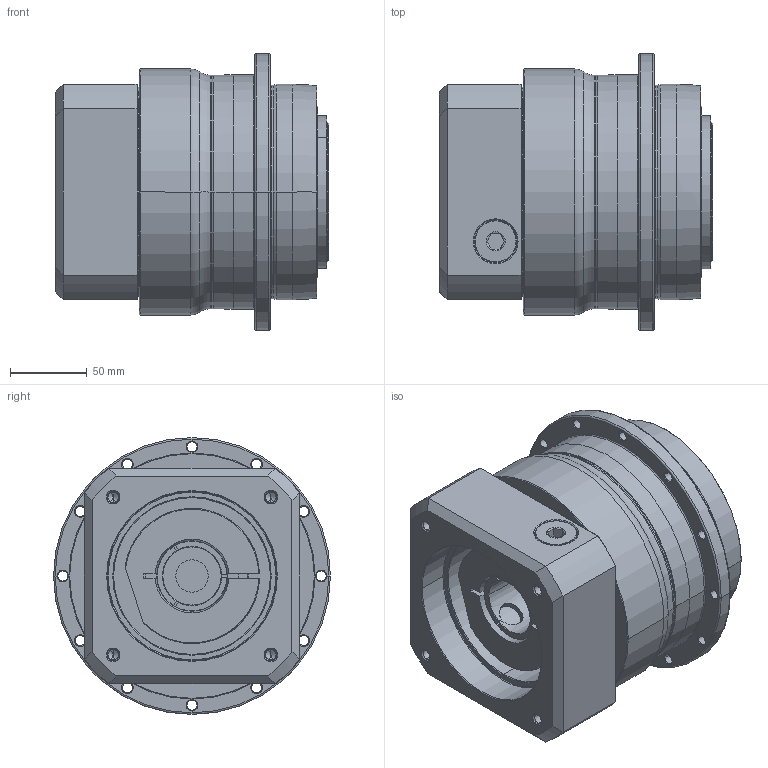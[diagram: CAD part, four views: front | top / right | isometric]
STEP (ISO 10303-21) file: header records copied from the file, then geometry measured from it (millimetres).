
FILE_DESCRIPTION((''),'2;1');
FILE_NAME('AH140_1ST_38-P0409900101_ASM','2016-08-17T',('d00435'),(''),'PRO/ENGINEER BY PARAMETRIC TECHNOLOGY CORPORATION, 2008410','PRO/ENGINEER BY PARAMETRIC TECHNOLOGY CORPORATION, 2008410','');
FILE_SCHEMA(('CONFIG_CONTROL_DESIGN'));
Length unit declared in the file: millimetre
Products named in the file (8): P0278500003; P0359500003; P1318500401; P0409900101; P0503900012; P0912504201; 21711422019; AH140_1ST_38-P0409900101_ASM
Assembly tree (7 placements, depth 2):
  AH140_1ST_38-P0409900101_ASM
    P0278500003
    P0359500003
    P1318500401
    P0409900101
    P0503900012
    P0912504201
    21711422019
Bounding box: 177.5 x 180 x 180 mm (x, y, z)
Volume: 2704143.6 mm3; surface area: 347452.2 mm2
Topology: 8 solids, 32 shells, 607 faces, 1409 edges, 857 vertices
Faces by surface type: cylinder 252, cone 168, plane 117, torus 56, bspline 14
Entity records: 21858 total; most frequent: CARTESIAN_POINT 7641, DIRECTION 3249, ORIENTED_EDGE 2630, AXIS2_PLACEMENT_3D 1379, EDGE_CURVE 1363, VERTEX_POINT 857, CIRCLE 761, EDGE_LOOP 730
